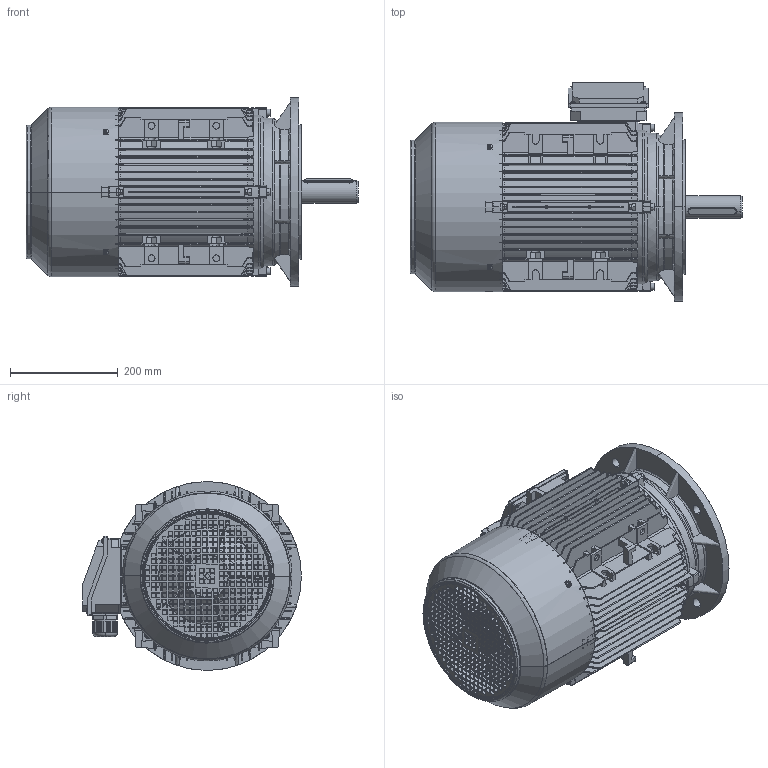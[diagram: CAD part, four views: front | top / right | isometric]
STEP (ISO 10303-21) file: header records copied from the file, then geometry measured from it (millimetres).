
FILE_DESCRIPTION (( 'STEP AP214' ), '1' );
FILE_NAME ('BMT4550.16F805.11.step', '2020-04-24T00:19:43', ( '' ), ( '' ), 'SwSTEP 2.0', 'SolidWorks 2019', '' );
FILE_SCHEMA (( 'AUTOMOTIVE_DESIGN' ));
Length unit declared in the file: millimetre
Products named in the file (1): BMT4550.16F805.11
Bounding box: 616 x 406 x 350 mm (x, y, z)
Volume: 6201141.4 mm3; surface area: 2668680 mm2
Topology: 35 solids, 35 shells, 5831 faces, 15807 edges, 9957 vertices
Faces by surface type: plane 3094, cylinder 1297, bspline 806, cone 373, torus 199, sphere 62
Entity records: 223157 total; most frequent: CARTESIAN_POINT 83011, ORIENTED_EDGE 31216, DIRECTION 25940, EDGE_CURVE 15608, VERTEX_POINT 9956, VECTOR 9242, LINE 9242, AXIS2_PLACEMENT_3D 8349
